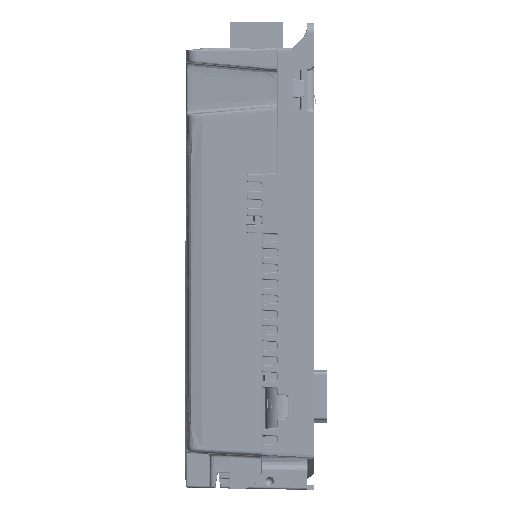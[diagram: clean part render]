
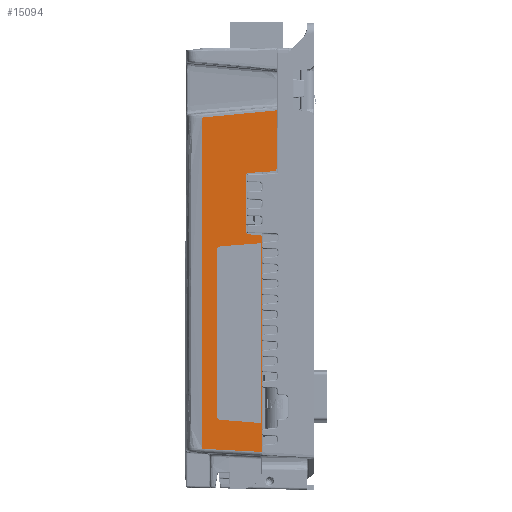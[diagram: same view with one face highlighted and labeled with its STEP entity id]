
A CAD part, left-side view. The second image highlights one B-rep face of the part: STEP entity #15094.
In plain terms, the highlighted planar face has unit normal (-1, 0.018, 0).
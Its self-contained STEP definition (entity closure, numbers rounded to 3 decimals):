
#4916=FACE_BOUND('',#43827,.T.);
#4917=FACE_BOUND('',#43828,.T.);
#9705=B_SPLINE_CURVE_WITH_KNOTS('',3,(#302276,#302277,#302278,#302279),
 .UNSPECIFIED.,.F.,.F.,(4,4),(0.,1.),.UNSPECIFIED.);
#9706=B_SPLINE_CURVE_WITH_KNOTS('',3,(#302281,#302282,#302283,#302284),
 .UNSPECIFIED.,.F.,.F.,(4,4),(0.,1.),.UNSPECIFIED.);
#15094=ADVANCED_FACE('',(#4916,#4917),#24833,.T.);
#24833=PLANE('',#209878);
#43827=EDGE_LOOP('',(#73365,#73366,#73367,#73368,#73369,#73370,#73371,#73372,
#73373,#73374,#73375,#73376));
#43828=EDGE_LOOP('',(#73377,#73378,#73379,#73380,#73381,#73382));
#59556=ELLIPSE('',#209872,0.5,0.5);
#59557=ELLIPSE('',#209873,1.5,1.5);
#59558=ELLIPSE('',#209874,1.5,1.5);
#59559=ELLIPSE('',#209875,1.5,1.5);
#59560=ELLIPSE('',#209876,2.,2.);
#59561=ELLIPSE('',#209877,2.,2.);
#73365=ORIENTED_EDGE('',*,*,#145132,.T.);
#73366=ORIENTED_EDGE('',*,*,#145133,.T.);
#73367=ORIENTED_EDGE('',*,*,#145134,.F.);
#73368=ORIENTED_EDGE('',*,*,#145135,.T.);
#73369=ORIENTED_EDGE('',*,*,#145136,.F.);
#73370=ORIENTED_EDGE('',*,*,#145137,.T.);
#73371=ORIENTED_EDGE('',*,*,#145138,.T.);
#73372=ORIENTED_EDGE('',*,*,#145139,.T.);
#73373=ORIENTED_EDGE('',*,*,#145140,.T.);
#73374=ORIENTED_EDGE('',*,*,#145141,.T.);
#73375=ORIENTED_EDGE('',*,*,#145142,.T.);
#73376=ORIENTED_EDGE('',*,*,#145143,.T.);
#73377=ORIENTED_EDGE('',*,*,#145144,.T.);
#73378=ORIENTED_EDGE('',*,*,#145145,.T.);
#73379=ORIENTED_EDGE('',*,*,#145146,.T.);
#73380=ORIENTED_EDGE('',*,*,#145147,.T.);
#73381=ORIENTED_EDGE('',*,*,#145148,.T.);
#73382=ORIENTED_EDGE('',*,*,#145149,.T.);
#123921=VERTEX_POINT('',#302258);
#123922=VERTEX_POINT('',#302259);
#123923=VERTEX_POINT('',#302261);
#123924=VERTEX_POINT('',#302263);
#123925=VERTEX_POINT('',#302265);
#123926=VERTEX_POINT('',#302267);
#123927=VERTEX_POINT('',#302269);
#123928=VERTEX_POINT('',#302271);
#123929=VERTEX_POINT('',#302273);
#123930=VERTEX_POINT('',#302275);
#123931=VERTEX_POINT('',#302280);
#123932=VERTEX_POINT('',#302285);
#123933=VERTEX_POINT('',#302288);
#123934=VERTEX_POINT('',#302289);
#123935=VERTEX_POINT('',#302291);
#123936=VERTEX_POINT('',#302293);
#123937=VERTEX_POINT('',#302295);
#123938=VERTEX_POINT('',#302297);
#145132=EDGE_CURVE('',#123921,#123922,#171707,.T.);
#145133=EDGE_CURVE('',#123922,#123923,#59556,.T.);
#145134=EDGE_CURVE('',#123924,#123923,#171708,.T.);
#145135=EDGE_CURVE('',#123924,#123925,#59557,.T.);
#145136=EDGE_CURVE('',#123926,#123925,#171709,.T.);
#145137=EDGE_CURVE('',#123926,#123927,#59558,.T.);
#145138=EDGE_CURVE('',#123927,#123928,#171710,.T.);
#145139=EDGE_CURVE('',#123928,#123929,#59559,.T.);
#145140=EDGE_CURVE('',#123929,#123930,#171711,.T.);
#145141=EDGE_CURVE('',#123930,#123931,#9705,.T.);
#145142=EDGE_CURVE('',#123931,#123932,#9706,.T.);
#145143=EDGE_CURVE('',#123932,#123921,#171712,.T.);
#145144=EDGE_CURVE('',#123933,#123934,#171713,.T.);
#145145=EDGE_CURVE('',#123934,#123935,#171714,.T.);
#145146=EDGE_CURVE('',#123935,#123936,#171715,.T.);
#145147=EDGE_CURVE('',#123936,#123937,#59560,.T.);
#145148=EDGE_CURVE('',#123937,#123938,#171716,.T.);
#145149=EDGE_CURVE('',#123938,#123933,#59561,.T.);
#171707=LINE('',#302257,#190438);
#171708=LINE('',#302262,#190439);
#171709=LINE('',#302266,#190440);
#171710=LINE('',#302270,#190441);
#171711=LINE('',#302274,#190442);
#171712=LINE('',#302286,#190443);
#171713=LINE('',#302287,#190444);
#171714=LINE('',#302290,#190445);
#171715=LINE('',#302292,#190446);
#171716=LINE('',#302296,#190447);
#190438=VECTOR('',#234641,1.);
#190439=VECTOR('',#234644,1.);
#190440=VECTOR('',#234647,1.);
#190441=VECTOR('',#234650,1.);
#190442=VECTOR('',#234653,1.);
#190443=VECTOR('',#234654,1.);
#190444=VECTOR('',#234655,1.);
#190445=VECTOR('',#234656,1.);
#190446=VECTOR('',#234657,1.);
#190447=VECTOR('',#234660,1.);
#209872=AXIS2_PLACEMENT_3D('',#302260,#234642,#234643);
#209873=AXIS2_PLACEMENT_3D('',#302264,#234645,#234646);
#209874=AXIS2_PLACEMENT_3D('',#302268,#234648,#234649);
#209875=AXIS2_PLACEMENT_3D('',#302272,#234651,#234652);
#209876=AXIS2_PLACEMENT_3D('',#302294,#234658,#234659);
#209877=AXIS2_PLACEMENT_3D('',#302298,#234661,#234662);
#209878=AXIS2_PLACEMENT_3D('',#302299,#234663,#234664);
#234641=DIRECTION('',(0.,0.,1.));
#234642=DIRECTION('',(-1.,0.017,0.));
#234643=DIRECTION('',(-0.017,-1.,0.));
#234644=DIRECTION('',(-0.017,-0.998,-0.052));
#234645=DIRECTION('',(1.,-0.017,0.));
#234646=DIRECTION('',(0.017,1.,0.));
#234647=DIRECTION('',(0.,0.,-1.));
#234648=DIRECTION('',(1.,-0.017,0.));
#234649=DIRECTION('',(-0.017,-1.,0.));
#234650=DIRECTION('',(-0.017,-0.998,0.068));
#234651=DIRECTION('',(-1.,0.017,0.));
#234652=DIRECTION('',(0.017,1.,0.));
#234653=DIRECTION('',(0.,0.,1.));
#234654=DIRECTION('',(-0.017,-0.998,-0.052));
#234655=DIRECTION('',(-0.017,-0.997,0.078));
#234656=DIRECTION('',(0.,0.,-1.));
#234657=DIRECTION('',(0.017,0.997,0.078));
#234658=DIRECTION('',(1.,-0.017,0.));
#234659=DIRECTION('',(-0.017,-1.,0.));
#234660=DIRECTION('',(0.,0.,1.));
#234661=DIRECTION('',(1.,-0.017,0.));
#234662=DIRECTION('',(0.017,1.,0.));
#234663=DIRECTION('',(-1.,0.017,0.));
#234664=DIRECTION('',(-0.017,-1.,0.));
#302257=CARTESIAN_POINT('',(-73.087,45.451,-48.012));
#302258=CARTESIAN_POINT('',(-73.087,45.451,-206.713));
#302259=CARTESIAN_POINT('',(-73.087,45.451,-106.037));
#302260=CARTESIAN_POINT('',(-73.078,45.951,-106.037));
#302261=CARTESIAN_POINT('',(-73.079,45.925,-105.537));
#302262=CARTESIAN_POINT('',(-73.463,23.921,-106.691));
#302263=CARTESIAN_POINT('',(-72.983,51.407,-105.25));
#302264=CARTESIAN_POINT('',(-72.984,51.329,-103.752));
#302265=CARTESIAN_POINT('',(-72.958,52.829,-103.752));
#302266=CARTESIAN_POINT('',(-72.958,52.829,-48.012));
#302267=CARTESIAN_POINT('',(-72.958,52.829,-78.089));
#302268=CARTESIAN_POINT('',(-72.984,51.329,-78.089));
#302269=CARTESIAN_POINT('',(-72.983,51.43,-76.593));
#302270=CARTESIAN_POINT('',(-73.548,19.057,-74.397));
#302271=CARTESIAN_POINT('',(-73.187,39.751,-75.801));
#302272=CARTESIAN_POINT('',(-73.185,39.852,-74.304));
#302273=CARTESIAN_POINT('',(-73.211,38.352,-74.304));
#302274=CARTESIAN_POINT('',(-73.211,38.352,-48.012));
#302275=CARTESIAN_POINT('',(-73.211,38.352,-47.39));
#302276=CARTESIAN_POINT('',(-73.211,38.352,-47.39));
#302277=CARTESIAN_POINT('',(-73.069,46.491,-48.288));
#302278=CARTESIAN_POINT('',(-72.867,58.076,-49.409));
#302279=CARTESIAN_POINT('',(-72.604,73.108,-50.754));
#302280=CARTESIAN_POINT('',(-72.604,73.108,-50.754));
#302281=CARTESIAN_POINT('',(-72.604,73.108,-50.754));
#302282=CARTESIAN_POINT('',(-72.604,73.108,-102.258));
#302283=CARTESIAN_POINT('',(-72.604,73.108,-153.761));
#302284=CARTESIAN_POINT('',(-72.604,73.108,-205.264));
#302285=CARTESIAN_POINT('',(-72.604,73.108,-205.264));
#302286=CARTESIAN_POINT('',(-73.371,29.205,-207.565));
#302287=CARTESIAN_POINT('',(-72.753,64.608,-110.839));
#302288=CARTESIAN_POINT('',(-72.753,64.608,-110.839));
#302289=CARTESIAN_POINT('',(-73.086,45.495,-109.335));
#302290=CARTESIAN_POINT('',(-73.086,45.495,-109.335));
#302291=CARTESIAN_POINT('',(-73.086,45.495,-193.267));
#302292=CARTESIAN_POINT('',(-73.086,45.495,-193.267));
#302293=CARTESIAN_POINT('',(-72.753,64.608,-191.762));
#302294=CARTESIAN_POINT('',(-72.755,64.451,-189.769));
#302295=CARTESIAN_POINT('',(-72.721,66.451,-189.769));
#302296=CARTESIAN_POINT('',(-72.721,66.451,-189.769));
#302297=CARTESIAN_POINT('',(-72.721,66.451,-112.833));
#302298=CARTESIAN_POINT('',(-72.755,64.451,-112.833));
#302299=CARTESIAN_POINT('',(-73.517,20.846,-48.012));
